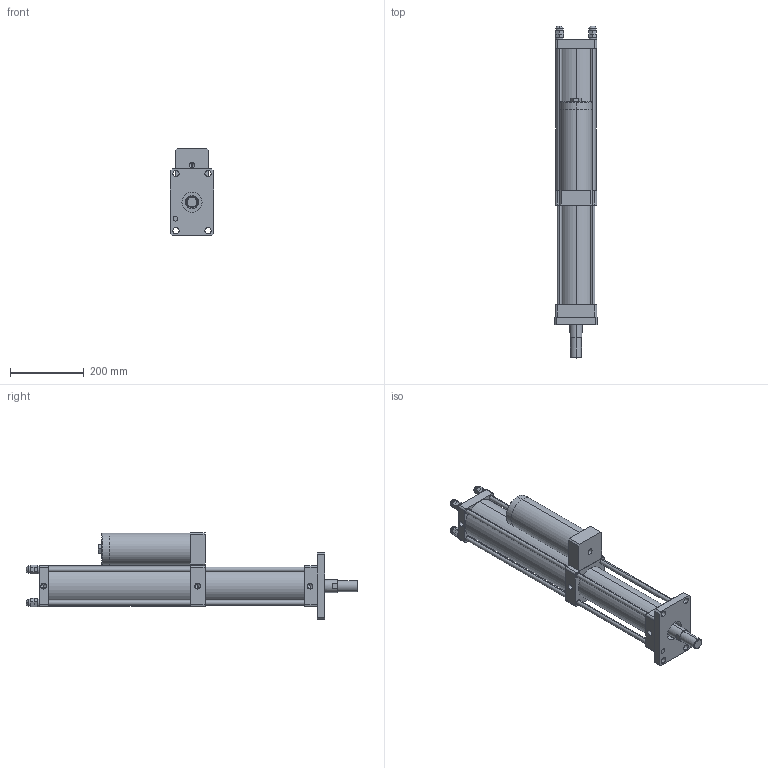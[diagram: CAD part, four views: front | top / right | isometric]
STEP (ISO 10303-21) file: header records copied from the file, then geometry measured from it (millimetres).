
FILE_DESCRIPTION (( 'STEP AP203' ), '1' );
FILE_NAME ('CPT-80-50-20-8T.STEP', '2016-03-11T03:04:26', ( 'WIN' ), ( '' ), 'SwSTEP 2.0', 'SolidWorks 2014', '' );
FILE_SCHEMA (( 'CONFIG_CONTROL_DESIGN' ));
Length unit declared in the file: millimetre
Products named in the file (1): CPT-80-50-20-8T
Bounding box: 118 x 901.07 x 235 mm (x, y, z)
Volume: 7150024.3 mm3; surface area: 771011.6 mm2
Topology: 17 solids, 17 shells, 388 faces, 955 edges, 556 vertices
Faces by surface type: plane 180, cylinder 90, bspline 48, torus 46, cone 24
Entity records: 12531 total; most frequent: CARTESIAN_POINT 3658, DIRECTION 1864, ORIENTED_EDGE 1778, EDGE_CURVE 889, AXIS2_PLACEMENT_3D 682, VERTEX_POINT 556, VECTOR 500, LINE 500
